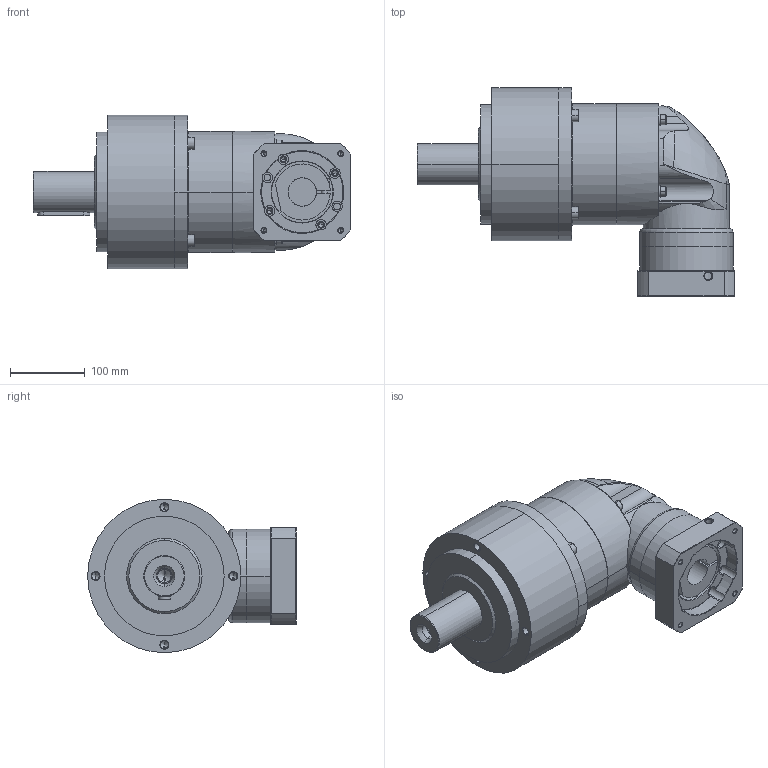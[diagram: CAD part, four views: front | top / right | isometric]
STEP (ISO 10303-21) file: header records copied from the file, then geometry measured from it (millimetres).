
FILE_DESCRIPTION((''),'2;1');
FILE_NAME('AER2052-P0403500101_ASM','2008-09-08T',('d00080'),(''),'PRO/ENGINEER BY PARAMETRIC TECHNOLOGY CORPORATION, 2006170','PRO/ENGINEER BY PARAMETRIC TECHNOLOGY CORPORATION, 2006170','');
FILE_SCHEMA(('CONFIG_CONTROL_DESIGN'));
Length unit declared in the file: millimetre
Products named in the file (11): AE205-2; P246; 220120905; RG-SET3-6_ASM; PD150001; 233100005; 220100815; HOUSING-SET-5_ASM; P1305500001; P0403500101; AER2052-P0403500101_ASM
Assembly tree (19 placements, depth 3):
  AER2052-P0403500101_ASM
    AE205-2
    RG-SET3-6_ASM
      P246
      220120905  x4
    HOUSING-SET-5_ASM
      PD150001
      233100005  x4
      220100815  x4
    P1305500001
    P0403500101
Bounding box: 425 x 279 x 205 mm (x, y, z)
Volume: 8425577.7 mm3; surface area: 539900.3 mm2
Topology: 17 solids, 39 shells, 698 faces, 1613 edges, 979 vertices
Faces by surface type: cylinder 300, plane 219, cone 120, torus 41, bspline 18
Entity records: 15721 total; most frequent: CARTESIAN_POINT 3945, DIRECTION 2626, ORIENTED_EDGE 2186, EDGE_CURVE 1137, AXIS2_PLACEMENT_3D 1094, VERTEX_POINT 727, EDGE_LOOP 588, CIRCLE 572
